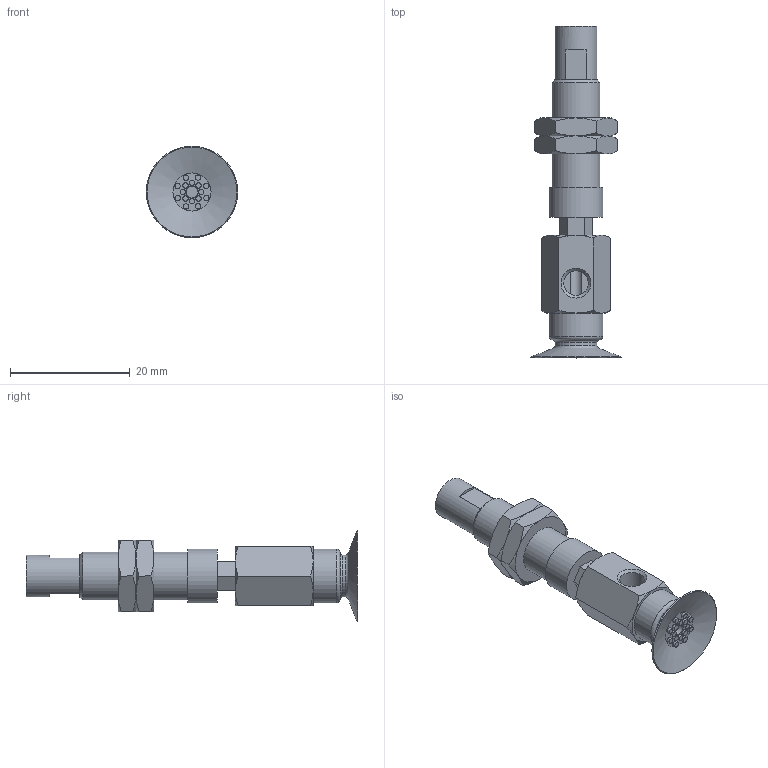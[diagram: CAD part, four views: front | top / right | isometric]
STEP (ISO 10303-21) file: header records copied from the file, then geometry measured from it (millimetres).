
FILE_DESCRIPTION(('STEP AP203'),'1');
FILE_NAME('.stp','2025-03-13T03:01:16',(' '),(' '),'Spatial InterOp 3D',' ',' ');
FILE_SCHEMA(('CONFIG_CONTROL_DESIGN'));
Length unit declared in the file: millimetre
Products named in the file (6): BNABPAYH-15A-3-※; NAPATH-10A-3--M; NAPATH-10A-3--F; Nut-10A-S; CONNECTOR-10A-3-PA; BPAG-15A-※
Assembly tree (6 placements, depth 2):
  BNABPAYH-15A-3-※
    NAPATH-10A-3--M
    NAPATH-10A-3--F
    Nut-10A-S  x2
    CONNECTOR-10A-3-PA
    BPAG-15A-※
Bounding box: 15.3 x 55.5 x 15.3 mm (x, y, z)
Volume: 3409.1 mm3; surface area: 4289.9 mm2
Topology: 6 solids, 6 shells, 170 faces, 347 edges, 214 vertices
Faces by surface type: plane 79, cone 50, cylinder 32, torus 9
Full cylindrical faces by diameter (mm): 0.9 x16, 2 x2, 4 x2, 4.134 x2, 5 x1, 6 x2, 7 x2, 7.188 x2, 8 x1, 9 x2
Entity records: 4064 total; most frequent: CARTESIAN_POINT 920, DIRECTION 604, ORIENTED_EDGE 480, AXIS2_PLACEMENT_3D 264, EDGE_CURVE 240, EDGE_LOOP 232, FACE_OUTER_BOUND 187, VERTEX_POINT 178
